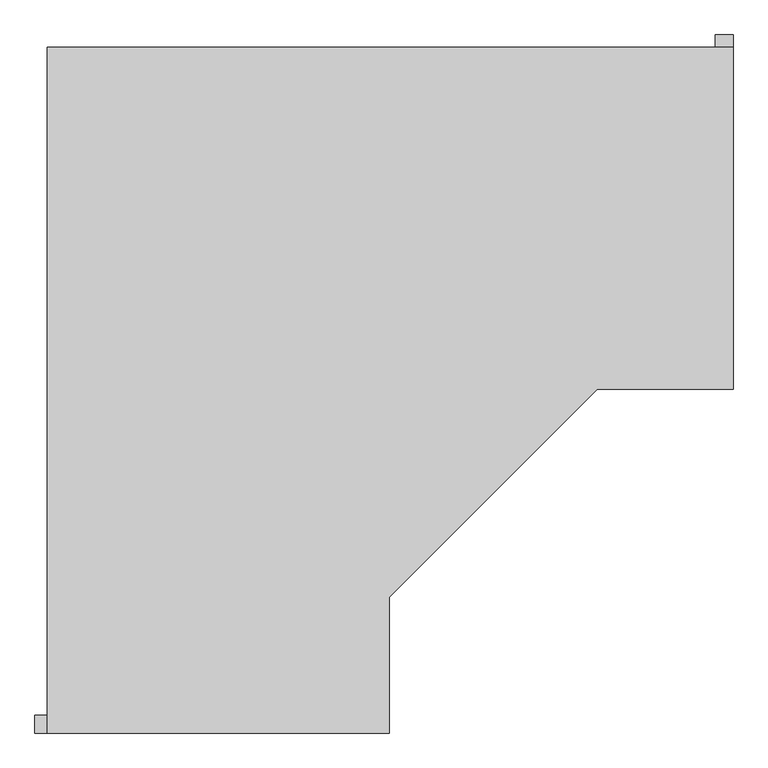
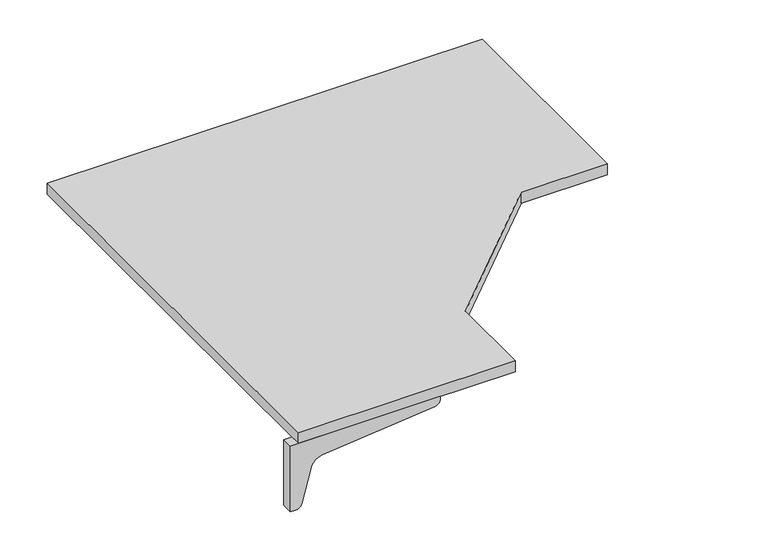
"""IFC4 building model written with IfcOpenShell, lengths in millimetres: furniture geometry."""

from ifc_helpers import new_model, si_unit, point, frame, frame_2d, origin, place, context, project, spatial, polyline, circle_curve, trimmed, segment, composite_curve, outline, extrude, source, transform, mapped, element, save


def furniture_db9437f5(model_context):
    return source(origin(), model_context, "Body", "SweptSolid", [
        extrude(outline(composite_curve([segment(polyline([(784.225, 704.85), (784.225, 511.175), (771.525, 511.175)]), True, "CONTINUOUS"), segment(trimmed(circle_curve(frame_2d((769.2081081, 528.3371622)), 17.3178462), [point((771.525, 511.175))], [point((752.475, 523.875))], False, "CARTESIAN"), True, "CONTINUOUS"), segment(polyline([(752.475, 523.875), (727.075, 615.95)]), True, "CONTINUOUS"), segment(trimmed(circle_curve(frame_2d((691.7170455, 612.3420455)), 35.5415572), [point((727.075, 615.95))], [point((695.325, 647.7))], True, "CARTESIAN"), True, "CONTINUOUS"), segment(polyline([(695.325, 647.7), (384.175, 679.45)]), True, "CONTINUOUS"), segment(trimmed(circle_curve(frame_2d((384.175, 698.5)), 19.05), [point((384.175, 679.45))], [point((365.125, 698.5))], False, "CARTESIAN"), True, "CONTINUOUS"), segment(polyline([(365.125, 698.5), (365.125, 704.85), (784.225, 704.85)]), True, "CONTINUOUS")], self_intersect=False)), frame((444.5, 0.0, 0.0), z_axis=(1.0, 0.0, 0.0), x_axis=(0.0, 1.0, 0.0)), (0.0, 0.0, 1.0), 31.75),
        extrude(outline(composite_curve([segment(polyline([(704.85, -762.0), (511.175, -762.0), (511.175, -749.3)]), True, "CONTINUOUS"), segment(trimmed(circle_curve(frame_2d((528.3371622, -746.9831081)), 17.3178462), [point((511.175, -749.3))], [point((523.875, -730.25))], False, "CARTESIAN"), True, "CONTINUOUS"), segment(polyline([(523.875, -730.25), (615.95, -704.85)]), True, "CONTINUOUS"), segment(trimmed(circle_curve(frame_2d((612.3420455, -669.4920455)), 35.5415572), [point((615.95, -704.85))], [point((647.7, -673.1))], True, "CARTESIAN"), True, "CONTINUOUS"), segment(polyline([(647.7, -673.1), (679.45, -361.95)]), True, "CONTINUOUS"), segment(trimmed(circle_curve(frame_2d((698.5, -361.95)), 19.05), [point((679.45, -361.95))], [point((698.5, -342.9))], False, "CARTESIAN"), True, "CONTINUOUS"), segment(polyline([(698.5, -342.9), (704.85, -342.9), (704.85, -762.0)]), True, "CONTINUOUS")], self_intersect=False)), frame((0.0, -454.025, 0.0), z_axis=(0.0, 1.0, 0.0), x_axis=(0.0, 0.0, 1.0)), (0.0, 0.0, 1.0), 31.75),
        extrude(outline(polyline([(476.25, 762.0), (476.25, 155.575), (234.95, 155.575), (-133.35, -212.725), (-133.35, -454.025), (-739.775, -454.025), (-739.775, 762.0), (476.25, 762.0)])), frame((0.0, 0.0, 704.85), z_axis=(0.0, 0.0, 1.0), x_axis=(1.0, 0.0, 0.0)), (0.0, 0.0, 1.0), 31.75),
    ])


if __name__ == "__main__":
    model = new_model("IFC4")
    model_context = context("Model", 3, world=origin())
    ifc_project = project(units=[si_unit("LENGTHUNIT", "METRE", prefix="MILLI")], contexts=[model_context])
    site = spatial("IfcSite", under=ifc_project)
    building = spatial("IfcBuilding", under=site)
    placement = place(None, origin())
    furniture_shape = furniture_db9437f5(model_context)
    element("IfcFurniture", 1, ObjectType="HermanMiller_ActionOffice_A2332_Sq-EdgeCornerWorkSurface : 24\"D x 48\"W", at=placement, inside=building, context=model_context, shape_type="MappedRepresentation", body=[
        mapped(furniture_shape, transform((0.0, 0.0, 0.0), x_axis=(1.0, 0.0, 0.0), y_axis=(0.0, 1.0, 0.0), z_axis=(0.0, 0.0, 1.0))),
    ])
    save(model, "model.ifc")
